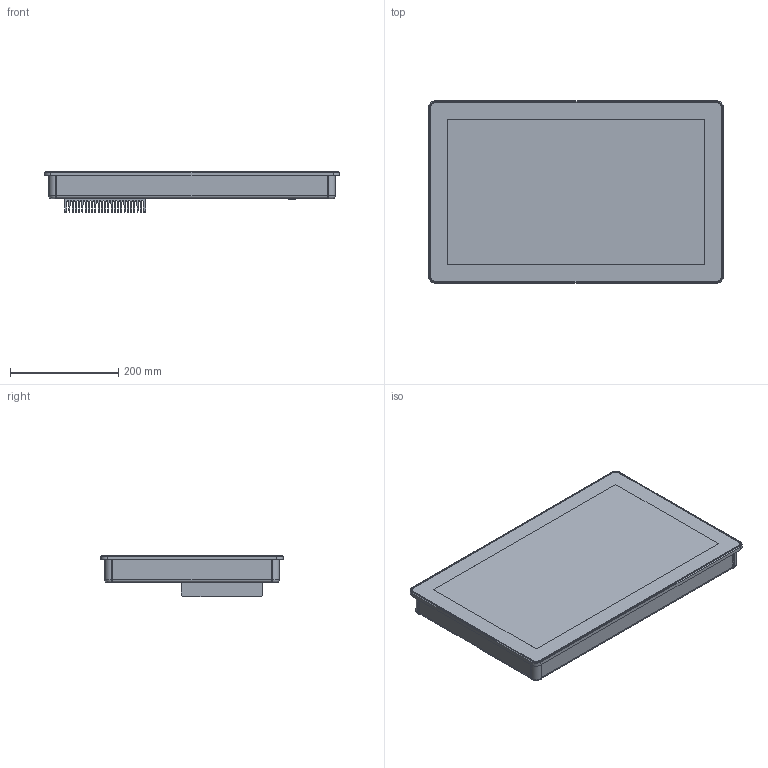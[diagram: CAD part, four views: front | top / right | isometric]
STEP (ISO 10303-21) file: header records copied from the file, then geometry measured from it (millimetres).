
FILE_DESCRIPTION(/* description */ (''),/* implementation_level */ '2;1');
FILE_NAME(/* name */ 'C:\SAPInventorWork\778-41958-00_EXTERN.stp',/* time_stamp */ '2024-06-26T14:42:37+02:00',/* author */ ('Aiple'),/* organization */ (''),/* preprocessor_version */ 'ST-DEVELOPER v18.1',/* originating_system */ 'Autodesk Inventor 2021',/* authorisation */ '');
FILE_SCHEMA (('AUTOMOTIVE_DESIGN { 1 0 10303 214 3 1 1 }'));
Products named in the file (1): 778-41958-00
Bounding box: 545.5 x 337 x 76.7 mm (x, y, z)
Volume: 8082883.5 mm3; surface area: 653284.5 mm2
Topology: 1 solids, 74 shells, 7667 faces, 22261 edges, 14725 vertices
Faces by surface type: plane 4648, cylinder 1677, bspline 1016, cone 272, torus 33, sphere 21
Full cylindrical faces by diameter (mm): 0.457 x1, 2.156 x2, 2.459 x18, 2.5 x2, 2.8 x6, 2.9 x2, 2.91 x5, 3 x9, 3.5 x14, 4 x2, 4.22 x8, 4.3 x8, 4.7 x2, 4.917 x4, 5 x3, 5.2 x1, 5.3 x2, 5.54 x4, 5.7 x14, 8.107 x4, 8.4 x14, 8.72 x4, 8.8 x4, 11.8 x1, 16 x1, 16.2 x1, 18 x1
Entity records: 276100 total; most frequent: CARTESIAN_POINT 71965, ORIENTED_EDGE 43010, DIRECTION 36248, EDGE_CURVE 22246, LINE 15456, VECTOR 15456, VERTEX_POINT 14725, AXIS2_PLACEMENT_3D 10396
